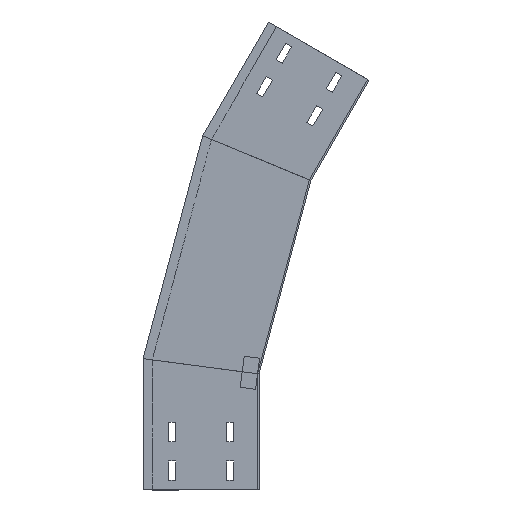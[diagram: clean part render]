
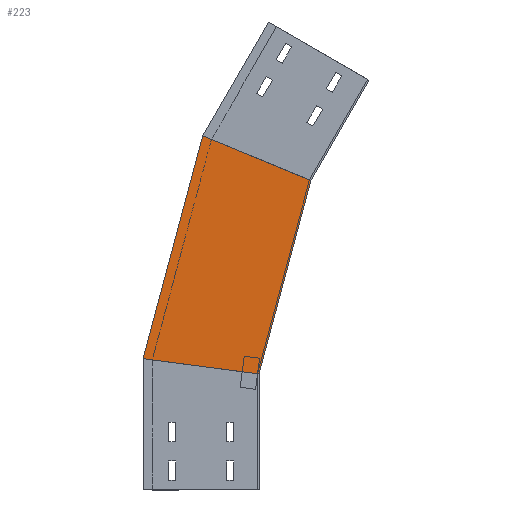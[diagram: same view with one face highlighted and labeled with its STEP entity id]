
A CAD part, left-side view. The second image highlights one B-rep face of the part: STEP entity #223.
In plain terms, the highlighted planar face has unit normal (-1, 0, 0) as drawn and (1, 0, 0) by its records, which use the part's own axes.
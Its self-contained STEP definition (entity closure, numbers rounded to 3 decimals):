
#7 = CARTESIAN_POINT ( 'NONE',  ( 0., 0., 150. ) ) ;
#126 = DIRECTION ( 'NONE',  ( 0., -0.259, 0.966 ) ) ;
#203 = DIRECTION ( 'NONE',  ( 1., 0., 0. ) ) ;
#223 = ADVANCED_FACE ( 'NONE', ( #1569 ), #978, .T. ) ;
#263 = LINE ( 'NONE', #881, #348 ) ;
#270 = CARTESIAN_POINT ( 'NONE',  ( 0., 150.537, 167.744 ) ) ;
#333 = CARTESIAN_POINT ( 'NONE',  ( 0., -19.411, 147.444 ) ) ;
#348 = VECTOR ( 'NONE', #1364, 1000. ) ;
#364 = VERTEX_POINT ( 'NONE', #1826 ) ;
#367 = EDGE_CURVE ( 'NONE', #467, #364, #1018, .T. ) ;
#372 = EDGE_CURVE ( 'NONE', #364, #408, #744, .T. ) ;
#391 = ORIENTED_EDGE ( 'NONE', *, *, #1722, .F. ) ;
#408 = VERTEX_POINT ( 'NONE', #1152 ) ;
#421 = VECTOR ( 'NONE', #436, 1000. ) ;
#436 = DIRECTION ( 'NONE',  ( 0., -0.924, -0.383 ) ) ;
#462 = ORIENTED_EDGE ( 'NONE', *, *, #372, .T. ) ;
#467 = VERTEX_POINT ( 'NONE', #1055 ) ;
#497 = ORIENTED_EDGE ( 'NONE', *, *, #367, .T. ) ;
#614 = VERTEX_POINT ( 'NONE', #7 ) ;
#646 = VECTOR ( 'NONE', #126, 1000. ) ;
#744 = LINE ( 'NONE', #1999, #421 ) ;
#881 = CARTESIAN_POINT ( 'NONE',  ( 0., 5.648, 128.921 ) ) ;
#978 = PLANE ( 'NONE',  #1341 ) ;
#1018 = LINE ( 'NONE', #270, #646 ) ;
#1055 = CARTESIAN_POINT ( 'NONE',  ( 0., 150., 169.748 ) ) ;
#1133 = DIRECTION ( 'NONE',  ( 0., -0.991, -0.131 ) ) ;
#1152 = CARTESIAN_POINT ( 'NONE',  ( 0., -67.034, 400.175 ) ) ;
#1341 = AXIS2_PLACEMENT_3D ( 'NONE', #1611, #203, #1455 ) ;
#1364 = DIRECTION ( 'NONE',  ( 0., -0.259, 0.966 ) ) ;
#1455 = DIRECTION ( 'NONE',  ( 0., 0., -1. ) ) ;
#1467 = ORIENTED_EDGE ( 'NONE', *, *, #1843, .F. ) ;
#1569 = FACE_OUTER_BOUND ( 'NONE', #1707, .T. ) ;
#1611 = CARTESIAN_POINT ( 'NONE',  ( 0., 5.648, 128.921 ) ) ;
#1707 = EDGE_LOOP ( 'NONE', ( #497, #462, #391, #1467 ) ) ;
#1722 = EDGE_CURVE ( 'NONE', #614, #408, #263, .T. ) ;
#1725 = LINE ( 'NONE', #333, #1981 ) ;
#1826 = CARTESIAN_POINT ( 'NONE',  ( 0., 72.744, 458.073 ) ) ;
#1843 = EDGE_CURVE ( 'NONE', #467, #614, #1725, .T. ) ;
#1981 = VECTOR ( 'NONE', #1133, 1000. ) ;
#1999 = CARTESIAN_POINT ( 'NONE',  ( 0., -100.899, 386.148 ) ) ;
